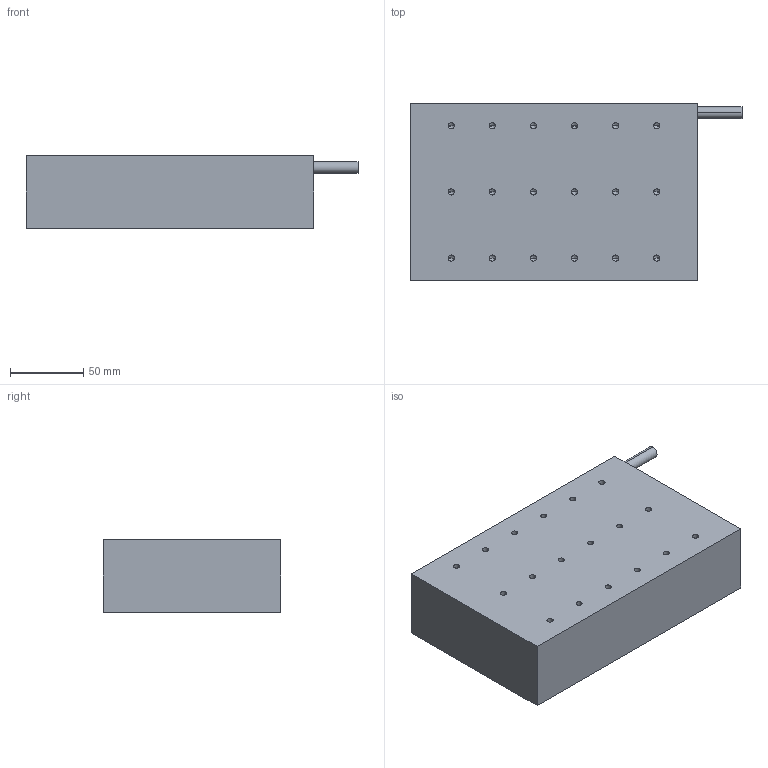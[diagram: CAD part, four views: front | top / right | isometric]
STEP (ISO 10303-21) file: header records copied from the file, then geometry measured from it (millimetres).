
FILE_DESCRIPTION (( 'STEP AP214' ), '1' );
FILE_NAME ('WKM100B雄赽.STEP', '2025-09-05T11:58:33', ( '' ), ( '' ), 'SwSTEP 2.0', 'SolidWorks 2016', '' );
FILE_SCHEMA (( 'AUTOMOTIVE_DESIGN' ));
Length unit declared in the file: millimetre
Products named in the file (1): WKM100B雄赽
Bounding box: 226 x 121 x 49.3 mm (x, y, z)
Volume: 1169230.3 mm3; surface area: 80790 mm2
Topology: 1 solids, 1 shells, 81 faces, 198 edges, 102 vertices
Faces by surface type: cylinder 38, cone 36, plane 7
Entity records: 2538 total; most frequent: DIRECTION 402, CARTESIAN_POINT 346, ORIENTED_EDGE 324, EDGE_CURVE 162, AXIS2_PLACEMENT_3D 158, VERTEX_POINT 102, EDGE_LOOP 100, VECTOR 86
